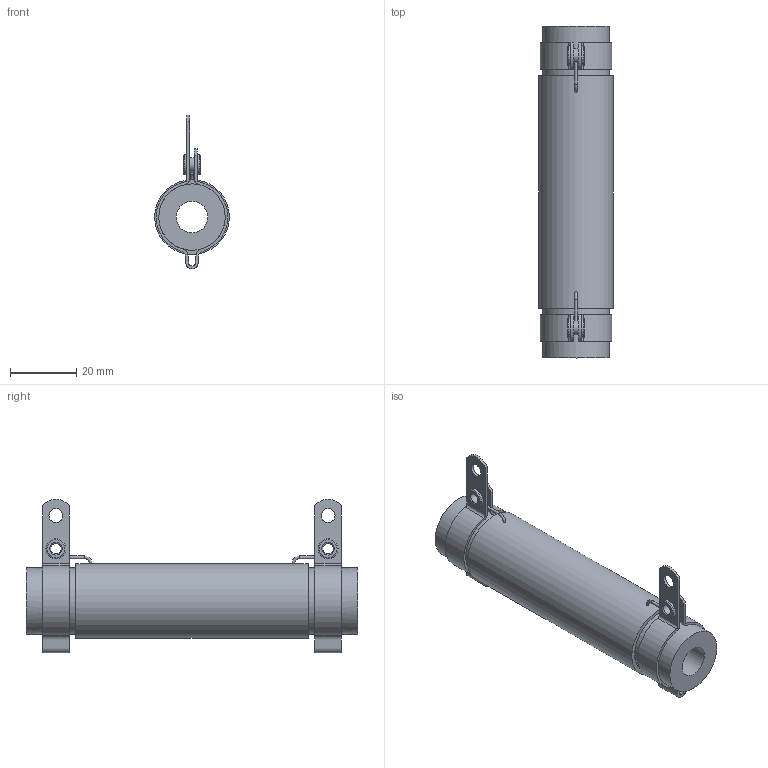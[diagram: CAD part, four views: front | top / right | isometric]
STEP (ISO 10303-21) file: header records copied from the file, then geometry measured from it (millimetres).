
FILE_DESCRIPTION(/* description */ (''),/* implementation_level */ '2;1');
FILE_NAME(/* name */ 'C:\_Vault\Dati\CATALOGO\RC-RS\TC\RS00060.stp',/* time_stamp */ '2014-01-22T17:34:26+01:00',/* author */ ('stefano'),/* organization */ (''),/* preprocessor_version */ 'ST-DEVELOPER v15.2',/* originating_system */ 'Autodesk Inventor 2014',/* authorisation */ '');
FILE_SCHEMA (('AUTOMOTIVE_DESIGN { 1 0 10303 214 3 1 1 }'));
Length unit declared in the file: millimetre
Products named in the file (1): RS00060
Bounding box: 22.5 x 100 x 46.2 mm (x, y, z)
Volume: 31480.6 mm3; surface area: 12512.6 mm2
Topology: 1 solids, 5 shells, 88 faces, 213 edges, 141 vertices
Faces by surface type: cylinder 38, plane 32, torus 10, bspline 8
Full cylindrical faces by diameter (mm): 0.4 x2, 0.8 x4, 3.2 x2, 4.2 x4, 6 x4, 9.5 x1, 20 x2, 22.5 x1
Entity records: 2995 total; most frequent: CARTESIAN_POINT 939, DIRECTION 398, ORIENTED_EDGE 340, AXIS2_PLACEMENT_3D 171, EDGE_CURVE 170, EDGE_LOOP 148, VERTEX_POINT 130, CIRCLE 90
